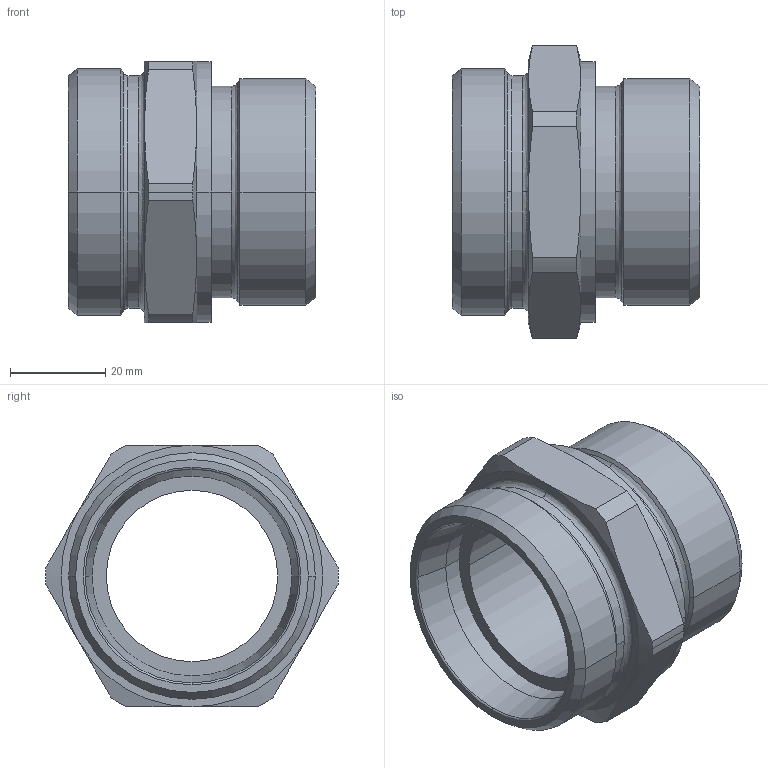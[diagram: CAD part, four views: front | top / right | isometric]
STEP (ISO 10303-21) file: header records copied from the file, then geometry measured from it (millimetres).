
FILE_DESCRIPTION((''),'2;1');
FILE_NAME('100513.stp','2007-10-30T14:16:53',(''),(''),'AutoCAD STEP 2000i','AutoCAD 2000i',', , ');
FILE_SCHEMA(('CONFIG_CONTROL_DESIGN'));
Length unit declared in the file: millimetre
Products named in the file (2): 100513.0; CHIAVE SMUSSATA#0
Assembly tree (1 placements, depth 2):
  100513.0
    CHIAVE SMUSSATA#0
Bounding box: 52 x 61.5 x 55 mm (x, y, z)
Volume: 46908.9 mm3; surface area: 17938.6 mm2
Topology: 1 solids, 1 shells, 75 faces, 185 edges, 117 vertices
Faces by surface type: cylinder 24, cone 24, plane 13, bspline 12, torus 2
Entity records: 2835 total; most frequent: CARTESIAN_POINT 955, DIRECTION 410, ORIENTED_EDGE 370, EDGE_CURVE 185, AXIS2_PLACEMENT_3D 184, CIRCLE 119, VERTEX_POINT 117, EDGE_LOOP 82
